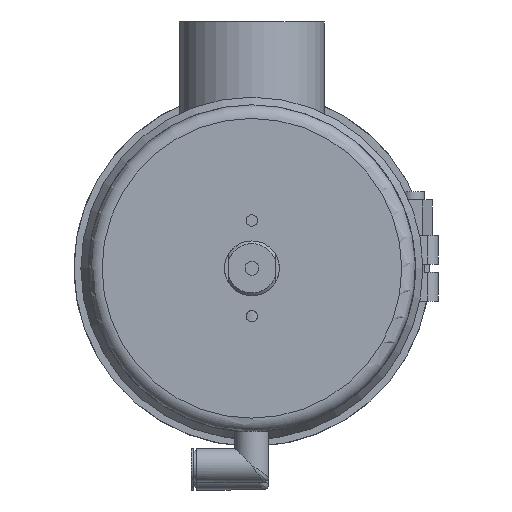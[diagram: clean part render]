
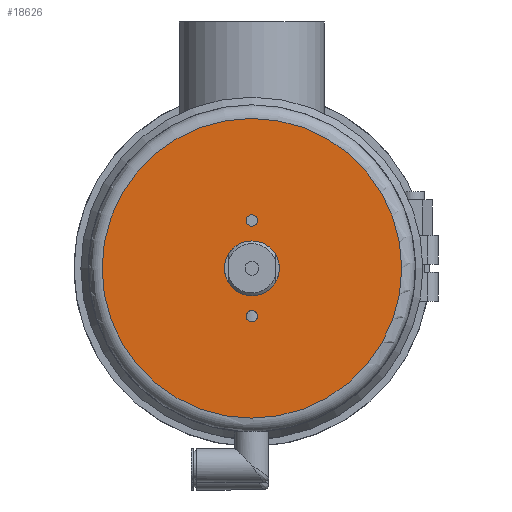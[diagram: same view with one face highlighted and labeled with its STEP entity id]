
A CAD part, front view. The second image highlights one B-rep face of the part: STEP entity #18626.
In plain terms, the highlighted planar face has unit normal (0, -1, 0) as drawn and (0, 1, 0) by its records, which use the part's own axes.
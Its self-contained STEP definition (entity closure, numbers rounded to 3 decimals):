
#139 = DIRECTION ( 'NONE',  ( 0., 1., 0. ) ) ;
#941 = EDGE_CURVE ( 'NONE', #7554, #7554, #22351, .T. ) ;
#1369 = DIRECTION ( 'NONE',  ( 0., 0., -1. ) ) ;
#2330 = CARTESIAN_POINT ( 'NONE',  ( 0., 214., 0. ) ) ;
#2503 = EDGE_LOOP ( 'NONE', ( #7270 ) ) ;
#2571 = DIRECTION ( 'NONE',  ( 0., 0., -1. ) ) ;
#3003 = ORIENTED_EDGE ( 'NONE', *, *, #8115, .F. ) ;
#4164 = CARTESIAN_POINT ( 'NONE',  ( 0., 214., -15.4 ) ) ;
#4185 = FACE_OUTER_BOUND ( 'NONE', #17976, .T. ) ;
#4307 = CARTESIAN_POINT ( 'NONE',  ( -59.75, 214., 0. ) ) ;
#5777 = DIRECTION ( 'NONE',  ( 0., -1., 0. ) ) ;
#6500 = AXIS2_PLACEMENT_3D ( 'NONE', #17842, #21199, #1369 ) ;
#6550 = VERTEX_POINT ( 'NONE', #21303 ) ;
#7270 = ORIENTED_EDGE ( 'NONE', *, *, #21203, .T. ) ;
#7554 = VERTEX_POINT ( 'NONE', #4164 ) ;
#7844 = DIRECTION ( 'NONE',  ( 0., 1., 0. ) ) ;
#8115 = EDGE_CURVE ( 'NONE', #15337, #15337, #14141, .T. ) ;
#9107 = EDGE_LOOP ( 'NONE', ( #3003 ) ) ;
#9145 = AXIS2_PLACEMENT_3D ( 'NONE', #16531, #7844, #22038 ) ;
#9884 = CARTESIAN_POINT ( 'NONE',  ( 0., 214., -10. ) ) ;
#9997 = EDGE_LOOP ( 'NONE', ( #19130 ) ) ;
#11087 = CIRCLE ( 'NONE', #16089, 10. ) ;
#11163 = DIRECTION ( 'NONE',  ( 0., 0., -1. ) ) ;
#12522 = DIRECTION ( 'NONE',  ( 0., 0., 1. ) ) ;
#13077 = FACE_BOUND ( 'NONE', #9997, .T. ) ;
#14141 = CIRCLE ( 'NONE', #9145, 2.1 ) ;
#15245 = AXIS2_PLACEMENT_3D ( 'NONE', #4307, #5777, #11163 ) ;
#15337 = VERTEX_POINT ( 'NONE', #17646 ) ;
#15492 = AXIS2_PLACEMENT_3D ( 'NONE', #16600, #139, #12522 ) ;
#16089 = AXIS2_PLACEMENT_3D ( 'NONE', #2330, #16982, #2571 ) ;
#16531 = CARTESIAN_POINT ( 'NONE',  ( 0., 214., 17.5 ) ) ;
#16600 = CARTESIAN_POINT ( 'NONE',  ( 0., 214., -17.5 ) ) ;
#16982 = DIRECTION ( 'NONE',  ( 0., -1., 0. ) ) ;
#17355 = ORIENTED_EDGE ( 'NONE', *, *, #21258, .T. ) ;
#17646 = CARTESIAN_POINT ( 'NONE',  ( 0., 214., 19.6 ) ) ;
#17842 = CARTESIAN_POINT ( 'NONE',  ( 0., 214., 0. ) ) ;
#17976 = EDGE_LOOP ( 'NONE', ( #17355 ) ) ;
#18626 = ADVANCED_FACE ( 'NONE', ( #13077, #20536, #4185, #20770 ), #18628, .F. ) ;
#18628 = PLANE ( 'NONE',  #15245 ) ;
#19130 = ORIENTED_EDGE ( 'NONE', *, *, #941, .F. ) ;
#20536 = FACE_BOUND ( 'NONE', #9107, .T. ) ;
#20770 = FACE_BOUND ( 'NONE', #2503, .T. ) ;
#21071 = VERTEX_POINT ( 'NONE', #9884 ) ;
#21199 = DIRECTION ( 'NONE',  ( 0., 1., 0. ) ) ;
#21203 = EDGE_CURVE ( 'NONE', #21071, #21071, #11087, .T. ) ;
#21258 = EDGE_CURVE ( 'NONE', #6550, #6550, #21820, .T. ) ;
#21303 = CARTESIAN_POINT ( 'NONE',  ( 0., 214., -54.75 ) ) ;
#21820 = CIRCLE ( 'NONE', #6500, 54.75 ) ;
#22038 = DIRECTION ( 'NONE',  ( 0., 0., 1. ) ) ;
#22351 = CIRCLE ( 'NONE', #15492, 2.1 ) ;
